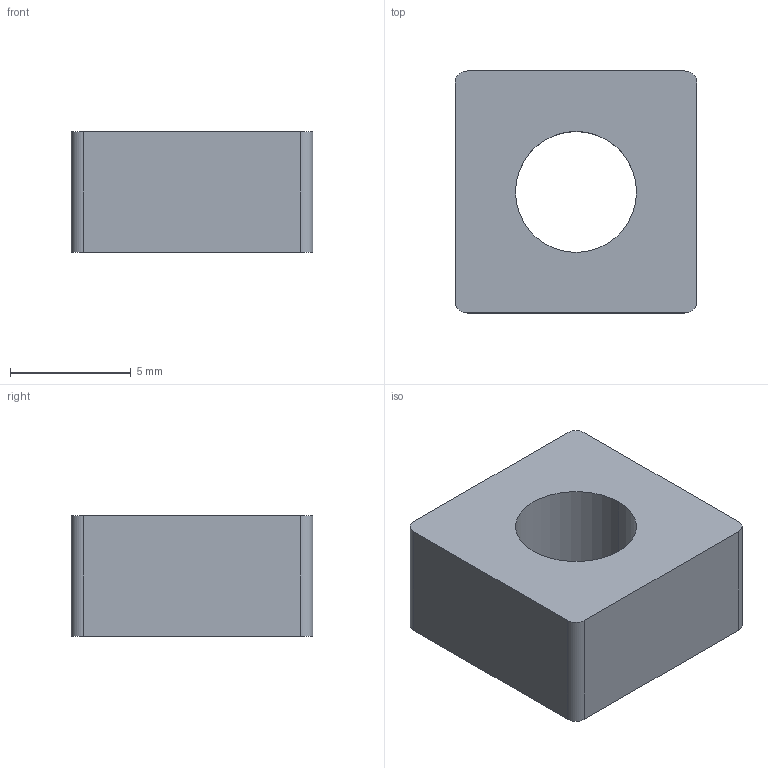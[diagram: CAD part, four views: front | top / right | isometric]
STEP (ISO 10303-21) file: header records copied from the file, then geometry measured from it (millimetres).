
FILE_DESCRIPTION (( 'STEP AP214' ), '1' );
FILE_NAME ('J3N6.step', '2017-05-24T07:39:56', ( 'admin' ), ( '' ), 'SwSTEP 2.0', 'SolidWorks 2014', '' );
FILE_SCHEMA (( 'AUTOMOTIVE_DESIGN' ));
Length unit declared in the file: millimetre
Products named in the file (1): J3N6
Bounding box: 10 x 10 x 5 mm (x, y, z)
Volume: 400.8 mm3; surface area: 434.5 mm2
Topology: 1 solids, 1 shells, 12 faces, 30 edges, 20 vertices
Faces by surface type: cylinder 6, plane 6
Entity records: 426 total; most frequent: DIRECTION 68, CARTESIAN_POINT 63, ORIENTED_EDGE 60, EDGE_CURVE 30, AXIS2_PLACEMENT_3D 25, VERTEX_POINT 20, VECTOR 18, LINE 18
